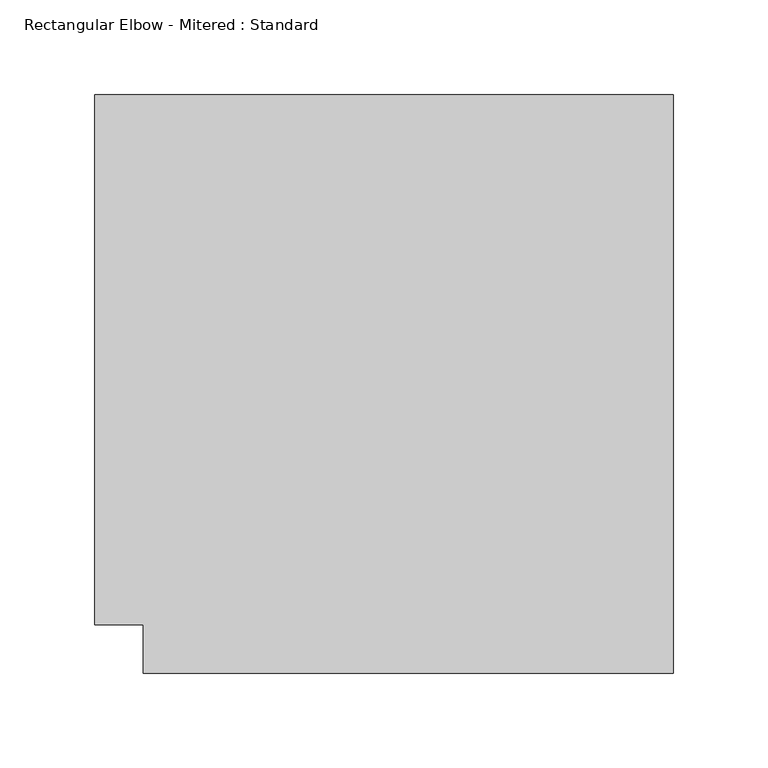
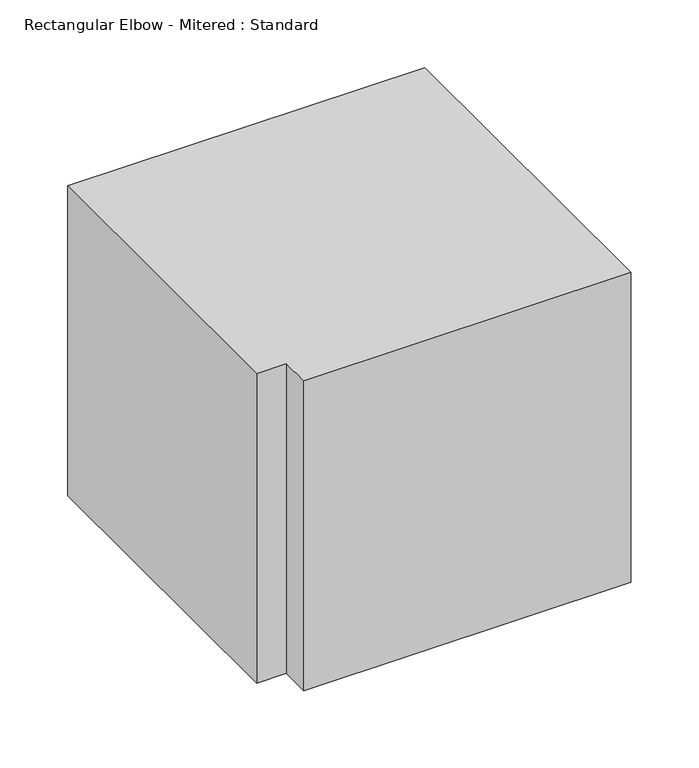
"""IFC4 building model written with IfcOpenShell, lengths in millimetres: duct fitting geometry, Rectangular Elbow - Mitered : Standard."""

import ifcopenshell
import ifcopenshell.guid

model = None  # the IFC model being written
_history = None  # IfcOwnerHistory: only IFC2X3 demands one
_inside = {}  # id of a spatial element -> (the spatial element, [elements in it])
_under = {}  # id of a project, library or spatial element -> (it, [spatial elements below it])
_declared = {}  # id of a project -> (the project, [libraries it declares])
_typed = {}  # id of a type object -> (the type object, [elements of that type])
_made_of = {}  # id of a material, layer set ... -> (it, [elements and type objects made of it])


def new_model(schema):
    """Start an empty IFC model of exactly this schema.

    Asked for "IFC4X3", IfcOpenShell would pick the latest addendum, in which some entities
    have other attributes; the version numbers below select the first issue.
    IFC2X3 requires an IfcOwnerHistory on every rooted entity: one is made here for all.
    """
    global model, _history
    if schema == "IFC4X3":
        model = ifcopenshell.file(schema_version=(4, 3, 0, 0))
    else:
        model = ifcopenshell.file(schema=schema)
    _inside.clear()
    _under.clear()
    _declared.clear()
    _typed.clear()
    _made_of.clear()
    _history = None
    if model.schema == "IFC2X3":
        org = make("IfcOrganization", Name="unknown")
        user = make(
            "IfcPersonAndOrganization",
            ThePerson=make("IfcPerson", FamilyName="unknown"),
            TheOrganization=org,
        )
        app = make(
            "IfcApplication",
            ApplicationDeveloper=org,
            Version="unknown",
            ApplicationFullName="unknown",
            ApplicationIdentifier="unknown",
        )
        _history = make(
            "IfcOwnerHistory",
            OwningUser=user,
            OwningApplication=app,
            ChangeAction="ADDED",
            CreationDate=0,
        )
    return model


def make(cls, **values):
    """One entity of the class cls with the attributes given. An attribute that is None is left unset."""
    return model.create_entity(
        cls, **{name: value for name, value in values.items() if value is not None}
    )


def rooted(cls, **values):
    """An entity with a GlobalId (a new one), such as an element, a storey or a relation."""
    return make(cls, GlobalId=ifcopenshell.guid.new(), OwnerHistory=_history, **values)


def si_unit(unit_type, name, prefix=None):
    """IfcSIUnit, for example si_unit("LENGTHUNIT", "METRE", prefix="MILLI")."""
    return make("IfcSIUnit", UnitType=unit_type, Prefix=prefix, Name=name)


def assignment(units):
    """IfcUnitAssignment: the units of a project."""
    return None if units is None else make("IfcUnitAssignment", Units=units)


def point(xyz):
    """IfcCartesianPoint."""
    return None if xyz is None else make("IfcCartesianPoint", Coordinates=xyz)


def direction(xyz):
    """IfcDirection."""
    return None if xyz is None else make("IfcDirection", DirectionRatios=xyz)


def frame(location, z_axis=None, x_axis=None):
    """IfcAxis2Placement3D, a coordinate frame: its origin and axes. An axis left out is left unset."""
    return make(
        "IfcAxis2Placement3D",
        Location=point(location),
        Axis=direction(z_axis),
        RefDirection=direction(x_axis),
    )


def origin():
    """The frame at (0, 0, 0) with its axes left unset."""
    return frame((0.0, 0.0, 0.0))


def place(relative_to, where):
    """IfcLocalPlacement: puts the frame where relative to a parent placement (None: the world)."""
    return make(
        "IfcLocalPlacement", PlacementRelTo=relative_to, RelativePlacement=where
    )


def context(
    kind, dimensions, precision=None, world=None, true_north=None, identifier=None
):
    """IfcGeometricRepresentationContext, for example the 3D "Model" context."""
    return make(
        "IfcGeometricRepresentationContext",
        ContextIdentifier=identifier,
        ContextType=kind,
        CoordinateSpaceDimension=dimensions,
        Precision=precision,
        WorldCoordinateSystem=world,
        TrueNorth=true_north,
    )


def project(units=None, contexts=None):
    """IfcProject with its units and contexts."""
    return rooted(
        "IfcProject",
        Name="project",
        RepresentationContexts=contexts,
        UnitsInContext=assignment(units),
    )


def spatial(cls, under=None, at=None, **own):
    """A site, building, storey or space (cls), placed at a placement, below another one or the project."""
    s = rooted(cls, ObjectPlacement=at, **own)
    if under is not None:
        _under.setdefault(under.id(), (under, []))[1].append(s)
    return s


def polyline(points):
    """IfcPolyline through the points."""
    return make("IfcPolyline", Points=[point(p) for p in points])


def outline(outer, holes=None, kind="AREA"):
    """IfcArbitraryClosedProfileDef: a profile drawn as a closed curve; with holes, ...WithVoids."""
    if holes is None:
        return make("IfcArbitraryClosedProfileDef", ProfileType=kind, OuterCurve=outer)
    return make(
        "IfcArbitraryProfileDefWithVoids",
        ProfileType=kind,
        OuterCurve=outer,
        InnerCurves=holes,
    )


def extrude(swept, where, along, depth):
    """IfcExtrudedAreaSolid: the profile swept, set in the frame where, extruded along a direction by depth."""
    return make(
        "IfcExtrudedAreaSolid",
        SweptArea=swept,
        Position=where,
        ExtrudedDirection=direction(along),
        Depth=depth,
    )


def shape(context_of_items, identifier, shape_type, items):
    """IfcShapeRepresentation: the items that make up one representation, for example the "Body"."""
    return make(
        "IfcShapeRepresentation",
        ContextOfItems=context_of_items,
        RepresentationIdentifier=identifier,
        RepresentationType=shape_type,
        Items=items,
    )


def source(mapping_origin, context_of_items, identifier, shape_type, items):
    """IfcRepresentationMap: a shape defined once, which mapped items show again and again."""
    return make(
        "IfcRepresentationMap",
        MappingOrigin=mapping_origin,
        MappedRepresentation=shape(context_of_items, identifier, shape_type, items),
    )


def transform(
    local_origin,
    x_axis=None,
    y_axis=None,
    z_axis=None,
    scale=None,
    scale2=None,
    scale3=None,
    uniform=True,
):
    """IfcCartesianTransformationOperator3D, or its non-uniform kind. x_axis, y_axis, z_axis: its Axis1, 2, 3."""
    if uniform:
        return make(
            "IfcCartesianTransformationOperator3D",
            Axis1=direction(x_axis),
            Axis2=direction(y_axis),
            LocalOrigin=point(local_origin),
            Scale=scale,
            Axis3=direction(z_axis),
        )
    return make(
        "IfcCartesianTransformationOperator3DnonUniform",
        Axis1=direction(x_axis),
        Axis2=direction(y_axis),
        LocalOrigin=point(local_origin),
        Scale=scale,
        Axis3=direction(z_axis),
        Scale2=scale2,
        Scale3=scale3,
    )


def mapped(mapping_source, mapping_target):
    """IfcMappedItem: shows the shape of a source again, moved by a transform."""
    return make(
        "IfcMappedItem", MappingSource=mapping_source, MappingTarget=mapping_target
    )


def made_of(thing, what):
    """Note that an element or type object is made of a material, layer set ...; save() writes the relation."""
    if what is not None:
        _made_of.setdefault(what.id(), (what, []))[1].append(thing)
    return thing


def element(
    cls,
    number,
    at=None,
    inside=None,
    cuts=None,
    type_object=None,
    material=None,
    context=None,
    identifier="Body",
    shape_type=None,
    held_by="IfcProductDefinitionShape",
    body=None,
    shapes=None,
    **own,
):
    """One element of the class cls, such as IfcWall. Its Tag is "e" and its number.

    at: its placement. inside: the storey or other place that contains it. cuts: it is an
    opening in that element (IfcRelVoidsElement). A single representation is given by context,
    identifier, shape_type and body (its items); several are given by shapes. held_by: the class
    of the entity that holds the representations. save() writes the other relations.
    """
    e = rooted(cls, Tag="e%d" % number, ObjectPlacement=at, **own)
    if body is not None:
        shapes = [shape(context, identifier, shape_type, body)]
    if shapes is not None:
        e.Representation = make(held_by, Representations=shapes)
    if inside is not None:
        _inside.setdefault(inside.id(), (inside, []))[1].append(e)
    if cuts is not None:
        rooted(
            "IfcRelVoidsElement", RelatingBuildingElement=cuts, RelatedOpeningElement=e
        )
    if type_object is not None:
        _typed.setdefault(type_object.id(), (type_object, []))[1].append(e)
    return made_of(e, material)


def aggregate(whole, parts):
    """IfcRelAggregates: a whole, such as a stair, and the parts it consists of."""
    return rooted("IfcRelAggregates", RelatingObject=whole, RelatedObjects=parts)


def save(model, path):
    """Write the relations noted so far, then the file.

    IfcRelAggregates (storeys below a building ...), IfcRelContainedInSpatialStructure (elements
    in a storey), IfcRelDefinesByType, IfcRelAssociatesMaterial and IfcRelDeclares: one each for
    every whole, place, type object, material and project.
    """
    for whole, parts in _under.values():
        aggregate(whole, parts)
    for where, things in _inside.values():
        rooted(
            "IfcRelContainedInSpatialStructure",
            RelatedElements=things,
            RelatingStructure=where,
        )
    for kind, things in _typed.values():
        rooted("IfcRelDefinesByType", RelatedObjects=things, RelatingType=kind)
    for what, things in _made_of.values():
        rooted("IfcRelAssociatesMaterial", RelatedObjects=things, RelatingMaterial=what)
    for by, libraries in _declared.values():
        rooted("IfcRelDeclares", RelatingContext=by, RelatedDefinitions=libraries)
    model.write(path)


def rectangular_elbow_mitered_standard_e940fa41(model_context):
    return source(origin(), model_context, "Body", "SweptSolid", [
        extrude(outline(polyline([(-165.1, 139.7), (139.7, 139.7), (139.7, -165.1), (-139.7, -165.1), (-139.7, -139.7), (-165.1, -139.7), (-165.1, 139.7)])), frame((0.0, 0.0, -139.7), z_axis=(0.0, 0.0, 1.0), x_axis=(1.0, 0.0, 0.0)), (0.0, 0.0, 1.0), 279.4),
    ])


if __name__ == "__main__":
    model = new_model("IFC4")
    model_context = context("Model", 3, world=origin())
    ifc_project = project(units=[si_unit("LENGTHUNIT", "METRE", prefix="MILLI")], contexts=[model_context])
    site = spatial("IfcSite", under=ifc_project)
    building = spatial("IfcBuilding", under=site)
    placement = place(None, origin())
    rectangular_elbow_mitered_standard_shape = rectangular_elbow_mitered_standard_e940fa41(model_context)
    element("IfcDuctFitting", 1, ObjectType="Rectangular Elbow - Mitered : Standard", at=placement, inside=building, context=model_context, shape_type="MappedRepresentation", body=[
        mapped(rectangular_elbow_mitered_standard_shape, transform((0.0, 0.0, 0.0), x_axis=(1.0, 0.0, 0.0), y_axis=(0.0, 1.0, 0.0), z_axis=(0.0, 0.0, 1.0))),
    ])
    save(model, "model.ifc")
